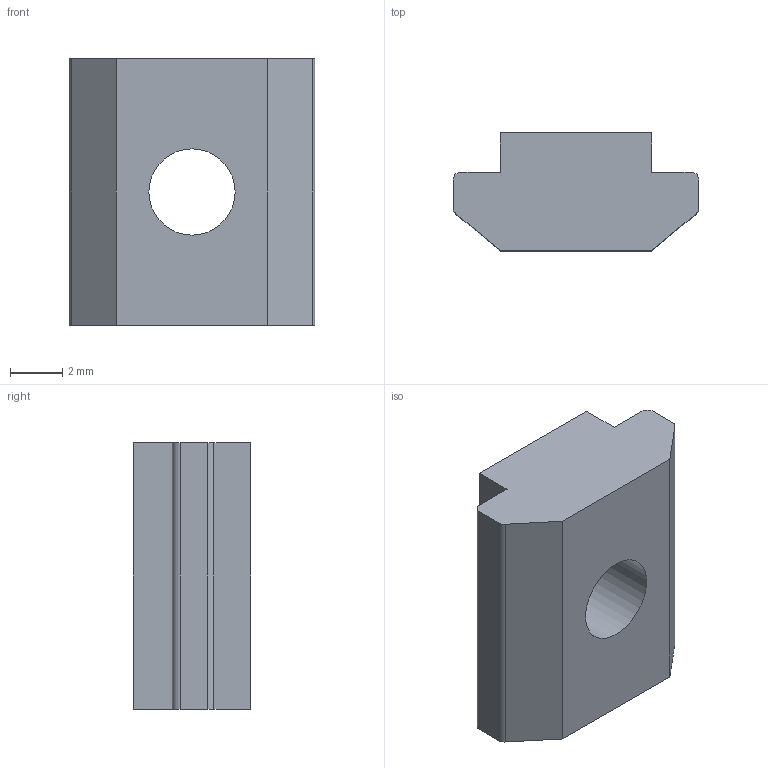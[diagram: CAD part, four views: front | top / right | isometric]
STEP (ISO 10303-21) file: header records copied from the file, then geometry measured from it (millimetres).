
FILE_DESCRIPTION (( 'STEP AP214' ), '1' );
FILE_NAME ('SNSD.30.52.25. Ñóõàðü ïàçîâûé Ì4, ïàç 6(H25).STEP', '2015-01-12T13:33:30', ( 'XTreme.ws' ), ( 'XTreme.ws' ), 'SwSTEP 2.0', 'SolidWorks 2014', '' );
FILE_SCHEMA (( 'AUTOMOTIVE_DESIGN' ));
Length unit declared in the file: millimetre
Products named in the file (2): SNSD.30.52.25. Ñóõàðü ïàçîâûé Ì4, ïàç 6(H25)
Bounding box: 9.4 x 4.5 x 10.2 mm (x, y, z)
Volume: 309.6 mm3; surface area: 357.5 mm2
Topology: 1 solids, 1 shells, 20 faces, 52 edges, 34 vertices
Faces by surface type: plane 12, cylinder 6, cone 2
Entity records: 689 total; most frequent: DIRECTION 110, CARTESIAN_POINT 108, ORIENTED_EDGE 104, EDGE_CURVE 52, VECTOR 38, LINE 38, AXIS2_PLACEMENT_3D 36, VERTEX_POINT 34
